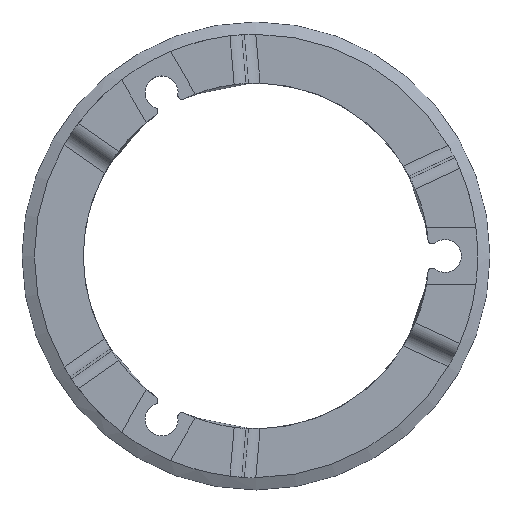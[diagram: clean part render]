
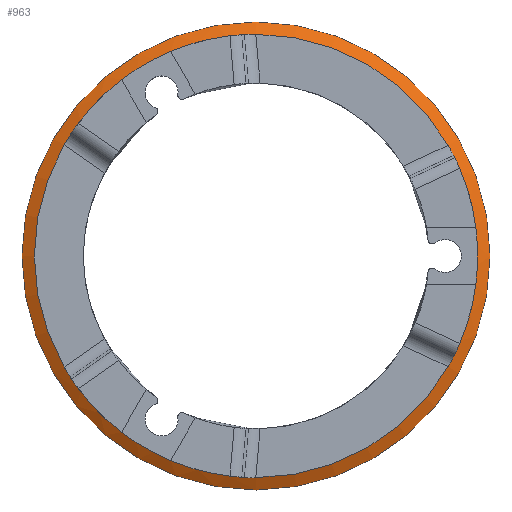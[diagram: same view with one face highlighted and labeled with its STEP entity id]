
A CAD part, top view. The second image highlights one B-rep face of the part: STEP entity #963.
In plain terms, the highlighted conical face has half-angle 63.435 degrees and reference radius 27 mm.
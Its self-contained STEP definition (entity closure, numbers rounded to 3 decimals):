
#12=CONICAL_SURFACE('',#1067,27.,1.107);
#80=CIRCLE('',#1026,27.);
#86=CIRCLE('',#1033,27.);
#88=CIRCLE('',#1036,27.);
#94=CIRCLE('',#1043,27.);
#97=CIRCLE('',#1047,27.);
#98=CIRCLE('',#1049,27.);
#110=CIRCLE('',#1068,28.5);
#111=CIRCLE('',#1069,27.);
#112=CIRCLE('',#1070,27.);
#113=CIRCLE('',#1071,27.);
#114=CIRCLE('',#1072,27.);
#115=CIRCLE('',#1073,27.);
#116=CIRCLE('',#1074,27.);
#204=ORIENTED_EDGE('',*,*,#502,.F.);
#205=ORIENTED_EDGE('',*,*,#503,.T.);
#206=ORIENTED_EDGE('',*,*,#469,.T.);
#207=ORIENTED_EDGE('',*,*,#504,.F.);
#208=ORIENTED_EDGE('',*,*,#466,.T.);
#209=ORIENTED_EDGE('',*,*,#505,.T.);
#210=ORIENTED_EDGE('',*,*,#441,.T.);
#211=ORIENTED_EDGE('',*,*,#506,.T.);
#212=ORIENTED_EDGE('',*,*,#448,.T.);
#213=ORIENTED_EDGE('',*,*,#507,.T.);
#214=ORIENTED_EDGE('',*,*,#453,.T.);
#215=ORIENTED_EDGE('',*,*,#508,.T.);
#216=ORIENTED_EDGE('',*,*,#460,.T.);
#441=EDGE_CURVE('',#594,#592,#80,.T.);
#448=EDGE_CURVE('',#600,#601,#86,.T.);
#453=EDGE_CURVE('',#606,#604,#88,.T.);
#460=EDGE_CURVE('',#612,#613,#94,.T.);
#466=EDGE_CURVE('',#619,#618,#97,.T.);
#469=EDGE_CURVE('',#622,#620,#98,.T.);
#502=EDGE_CURVE('',#648,#648,#110,.T.);
#503=EDGE_CURVE('',#613,#622,#111,.T.);
#504=EDGE_CURVE('',#619,#620,#112,.T.);
#505=EDGE_CURVE('',#618,#594,#113,.T.);
#506=EDGE_CURVE('',#592,#600,#114,.T.);
#507=EDGE_CURVE('',#601,#606,#115,.T.);
#508=EDGE_CURVE('',#604,#612,#116,.T.);
#592=VERTEX_POINT('',#1465);
#594=VERTEX_POINT('',#1468);
#600=VERTEX_POINT('',#1482);
#601=VERTEX_POINT('',#1483);
#604=VERTEX_POINT('',#1491);
#606=VERTEX_POINT('',#1494);
#612=VERTEX_POINT('',#1508);
#613=VERTEX_POINT('',#1509);
#618=VERTEX_POINT('',#1520);
#619=VERTEX_POINT('',#1522);
#620=VERTEX_POINT('',#1526);
#622=VERTEX_POINT('',#1529);
#648=VERTEX_POINT('',#1615);
#818=EDGE_LOOP('',(#204));
#819=EDGE_LOOP('',(#205,#206,#207,#208,#209,#210,#211,#212,#213,#214,#215,
#216));
#878=FACE_BOUND('',#818,.T.);
#879=FACE_BOUND('',#819,.T.);
#963=ADVANCED_FACE('',(#878,#879),#12,.T.);
#1026=AXIS2_PLACEMENT_3D('',#1467,#1155,#1156);
#1033=AXIS2_PLACEMENT_3D('',#1481,#1170,#1171);
#1036=AXIS2_PLACEMENT_3D('',#1493,#1179,#1180);
#1043=AXIS2_PLACEMENT_3D('',#1507,#1194,#1195);
#1047=AXIS2_PLACEMENT_3D('',#1521,#1205,#1206);
#1049=AXIS2_PLACEMENT_3D('',#1528,#1211,#1212);
#1067=AXIS2_PLACEMENT_3D('',#1613,#1256,#1257);
#1068=AXIS2_PLACEMENT_3D('',#1614,#1258,#1259);
#1069=AXIS2_PLACEMENT_3D('',#1616,#1260,#1261);
#1070=AXIS2_PLACEMENT_3D('',#1617,#1262,#1263);
#1071=AXIS2_PLACEMENT_3D('',#1618,#1264,#1265);
#1072=AXIS2_PLACEMENT_3D('',#1619,#1266,#1267);
#1073=AXIS2_PLACEMENT_3D('',#1620,#1268,#1269);
#1074=AXIS2_PLACEMENT_3D('',#1621,#1270,#1271);
#1155=DIRECTION('',(0.,0.,-1.));
#1156=DIRECTION('',(-1.,0.,0.));
#1170=DIRECTION('',(0.,0.,-1.));
#1171=DIRECTION('',(-1.,0.,0.));
#1179=DIRECTION('',(0.,0.,-1.));
#1180=DIRECTION('',(-1.,0.,0.));
#1194=DIRECTION('',(0.,0.,-1.));
#1195=DIRECTION('',(-1.,0.,0.));
#1205=DIRECTION('',(0.,0.,-1.));
#1206=DIRECTION('',(-1.,0.,0.));
#1211=DIRECTION('',(0.,0.,-1.));
#1212=DIRECTION('',(-1.,0.,0.));
#1256=DIRECTION('',(0.,0.,-1.));
#1257=DIRECTION('',(-1.,0.,0.));
#1258=DIRECTION('',(0.,0.,-1.));
#1259=DIRECTION('',(-1.,0.,0.));
#1260=DIRECTION('',(0.,0.,-1.));
#1261=DIRECTION('',(-1.,0.,0.));
#1262=DIRECTION('',(0.,0.,1.));
#1263=DIRECTION('',(-1.,0.,0.));
#1264=DIRECTION('',(0.,0.,-1.));
#1265=DIRECTION('',(-1.,0.,0.));
#1266=DIRECTION('',(0.,0.,-1.));
#1267=DIRECTION('',(-1.,0.,0.));
#1268=DIRECTION('',(0.,0.,-1.));
#1269=DIRECTION('',(-1.,0.,0.));
#1270=DIRECTION('',(0.,0.,-1.));
#1271=DIRECTION('',(-1.,0.,0.));
#1465=CARTESIAN_POINT('',(-16.377,-21.466,1.5));
#1467=CARTESIAN_POINT('',(0.,0.,1.5));
#1468=CARTESIAN_POINT('',(-10.402,-24.916,1.5));
#1481=CARTESIAN_POINT('',(0.,0.,1.5));
#1482=CARTESIAN_POINT('',(-23.37,-13.522,1.5));
#1483=CARTESIAN_POINT('',(-23.37,13.522,1.5));
#1491=CARTESIAN_POINT('',(-10.402,24.916,1.5));
#1493=CARTESIAN_POINT('',(0.,0.,1.5));
#1494=CARTESIAN_POINT('',(-16.377,21.466,1.5));
#1507=CARTESIAN_POINT('',(0.,0.,1.5));
#1508=CARTESIAN_POINT('',(-0.025,27.,1.5));
#1509=CARTESIAN_POINT('',(23.395,13.478,1.5));
#1520=CARTESIAN_POINT('',(-0.025,-27.,1.5));
#1521=CARTESIAN_POINT('',(0.,0.,1.5));
#1522=CARTESIAN_POINT('',(23.395,-13.478,1.5));
#1526=CARTESIAN_POINT('',(26.779,-3.45,1.5));
#1528=CARTESIAN_POINT('',(0.,0.,1.5));
#1529=CARTESIAN_POINT('',(26.779,3.45,1.5));
#1613=CARTESIAN_POINT('',(0.,0.,1.5));
#1614=CARTESIAN_POINT('',(0.,0.,0.75));
#1615=CARTESIAN_POINT('',(-28.5,0.,0.75));
#1616=CARTESIAN_POINT('',(0.,0.,1.5));
#1617=CARTESIAN_POINT('',(0.,0.,1.5));
#1618=CARTESIAN_POINT('',(0.,0.,1.5));
#1619=CARTESIAN_POINT('',(0.,0.,1.5));
#1620=CARTESIAN_POINT('',(0.,0.,1.5));
#1621=CARTESIAN_POINT('',(0.,0.,1.5));
